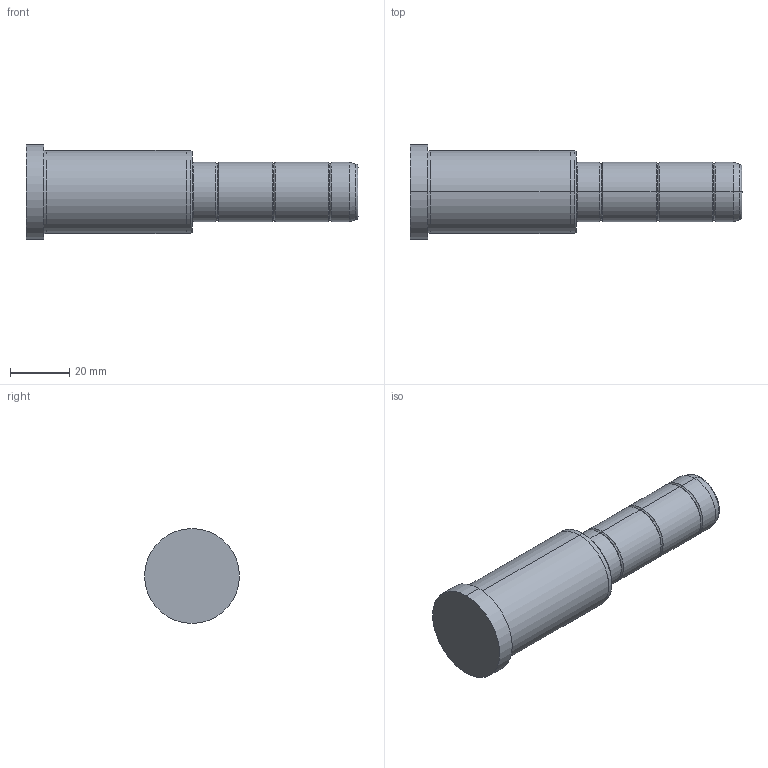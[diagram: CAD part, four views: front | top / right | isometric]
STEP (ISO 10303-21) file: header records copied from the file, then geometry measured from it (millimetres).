
FILE_DESCRIPTION( ( 'STEP AP203' ), '1' );
FILE_NAME( 'C:/Projects/D02 - 20x56x56.step', '2003-01-04T13:55:04', ( ' ' ), ( ' ' ), 'XStep 1.0', ' ', ' ' );
FILE_SCHEMA( ( 'CONFIG_CONTROL_DESIGN' ) );
Length unit declared in the file: metre
Products named in the file (1): 1
Bounding box: 112 x 32 x 32 mm (x, y, z)
Volume: 53087.3 mm3; surface area: 10128.9 mm2
Topology: 1 solids, 1 shells, 42 faces, 82 edges, 46 vertices
Faces by surface type: bspline 22, revolution 20
Entity records: 1325 total; most frequent: CARTESIAN_POINT 517, ORIENTED_EDGE 164, DIRECTION 134, EDGE_CURVE 82, AXIS2_PLACEMENT_3D 47, EDGE_LOOP 46, VERTEX_POINT 46, CIRCLE 46
